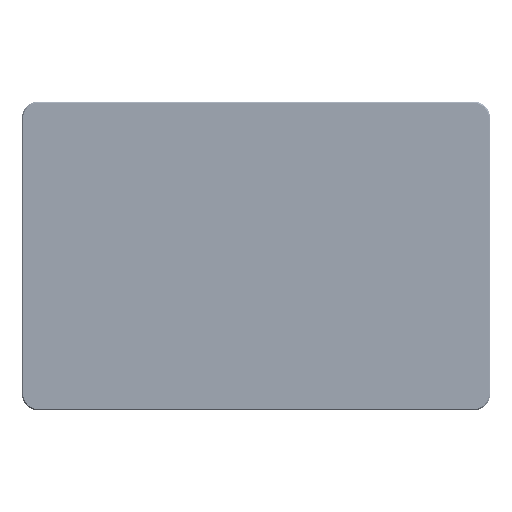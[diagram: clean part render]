
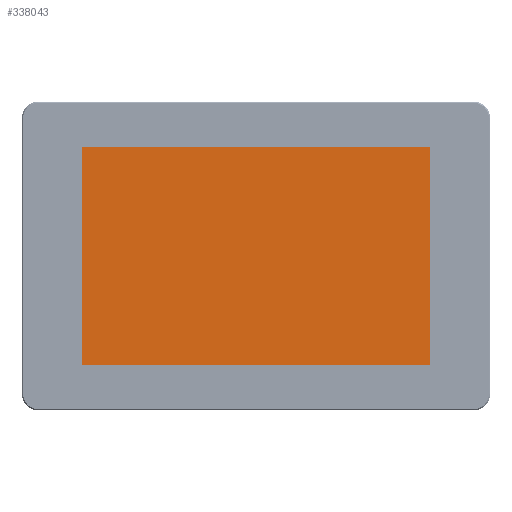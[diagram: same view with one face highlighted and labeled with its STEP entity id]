
A CAD part, top view. The second image highlights one B-rep face of the part: STEP entity #338043.
In plain terms, the highlighted planar face has unit normal (0, 0, 1).
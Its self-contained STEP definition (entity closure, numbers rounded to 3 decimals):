
#1895 = EDGE_CURVE ( 'NONE', #446700, #241688, #263149, .T. ) ;
#10208 = CARTESIAN_POINT ( 'NONE',  ( -125.944, -52.702, 330.25 ) ) ;
#20826 = VECTOR ( 'NONE', #205425, 1000. ) ;
#39046 = ORIENTED_EDGE ( 'NONE', *, *, #196928, .T. ) ;
#44986 = ORIENTED_EDGE ( 'NONE', *, *, #122919, .T. ) ;
#107435 = VERTEX_POINT ( 'NONE', #10208 ) ;
#113342 = PLANE ( 'NONE',  #322060 ) ;
#122919 = EDGE_CURVE ( 'NONE', #107435, #373460, #482756, .T. ) ;
#129541 = DIRECTION ( 'NONE',  ( 0., -1., 0. ) ) ;
#185111 = CARTESIAN_POINT ( 'NONE',  ( 92.056, 83.898, 330.25 ) ) ;
#196928 = EDGE_CURVE ( 'NONE', #241688, #107435, #256578, .T. ) ;
#201475 = CARTESIAN_POINT ( 'NONE',  ( 92.056, 83.898, 330.25 ) ) ;
#205425 = DIRECTION ( 'NONE',  ( -1., 0., 0. ) ) ;
#212086 = VECTOR ( 'NONE', #352029, 1000. ) ;
#241688 = VERTEX_POINT ( 'NONE', #307839 ) ;
#250203 = VECTOR ( 'NONE', #129541, 1000. ) ;
#256578 = LINE ( 'NONE', #501698, #250203 ) ;
#263149 = LINE ( 'NONE', #330181, #20826 ) ;
#299206 = VECTOR ( 'NONE', #352781, 1000. ) ;
#307839 = CARTESIAN_POINT ( 'NONE',  ( -125.944, 83.898, 330.25 ) ) ;
#312401 = CARTESIAN_POINT ( 'NONE',  ( -125.944, -52.702, 330.25 ) ) ;
#317544 = ORIENTED_EDGE ( 'NONE', *, *, #1895, .T. ) ;
#322060 = AXIS2_PLACEMENT_3D ( 'NONE', #494600, #534883, #540322 ) ;
#330181 = CARTESIAN_POINT ( 'NONE',  ( -125.944, 83.898, 330.25 ) ) ;
#338043 = ADVANCED_FACE ( 'NONE', ( #408248 ), #113342, .T. ) ;
#349969 = LINE ( 'NONE', #185111, #212086 ) ;
#352029 = DIRECTION ( 'NONE',  ( 0., 1., 0. ) ) ;
#352781 = DIRECTION ( 'NONE',  ( 1., 0., 0. ) ) ;
#359648 = ORIENTED_EDGE ( 'NONE', *, *, #413474, .T. ) ;
#373460 = VERTEX_POINT ( 'NONE', #380555 ) ;
#380555 = CARTESIAN_POINT ( 'NONE',  ( 92.056, -52.702, 330.25 ) ) ;
#408248 = FACE_OUTER_BOUND ( 'NONE', #490167, .T. ) ;
#413474 = EDGE_CURVE ( 'NONE', #373460, #446700, #349969, .T. ) ;
#446700 = VERTEX_POINT ( 'NONE', #201475 ) ;
#482756 = LINE ( 'NONE', #312401, #299206 ) ;
#490167 = EDGE_LOOP ( 'NONE', ( #39046, #44986, #359648, #317544 ) ) ;
#494600 = CARTESIAN_POINT ( 'NONE',  ( -884.291, -396.91, 330.25 ) ) ;
#501698 = CARTESIAN_POINT ( 'NONE',  ( -125.944, 83.898, 330.25 ) ) ;
#534883 = DIRECTION ( 'NONE',  ( 0., 0., 1. ) ) ;
#540322 = DIRECTION ( 'NONE',  ( 1., 0., 0. ) ) ;
